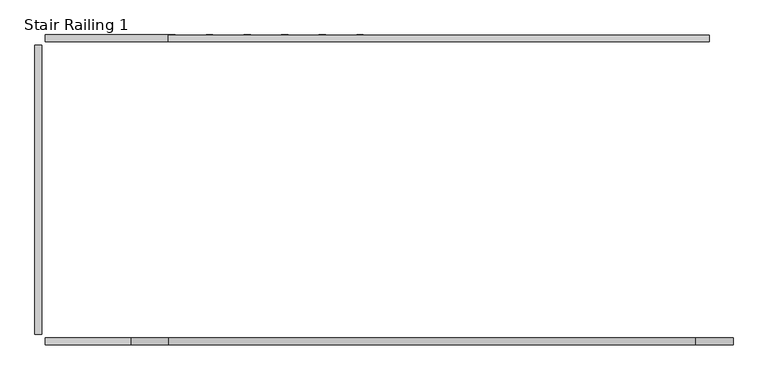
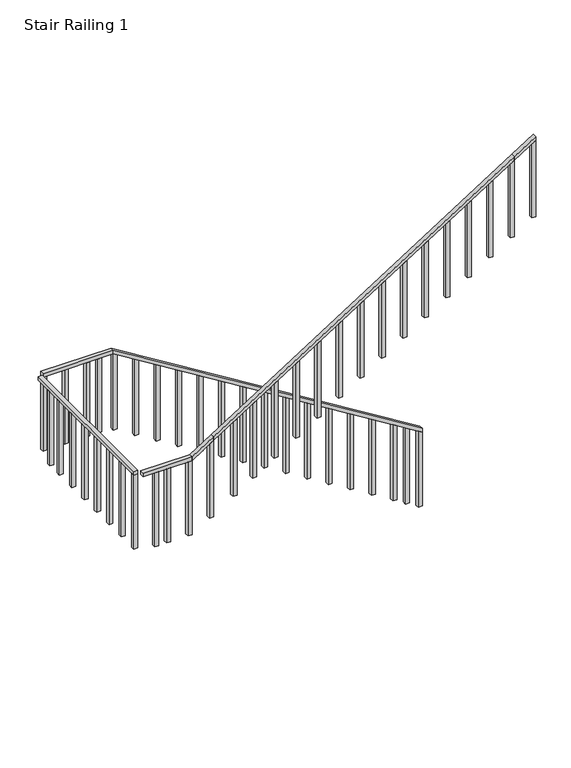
"""IFC4 building model written with IfcOpenShell, lengths in millimetres: railing geometry, Stair Railing 1."""

import ifcopenshell
import ifcopenshell.guid

model = None  # the IFC model being written
_history = None  # IfcOwnerHistory: only IFC2X3 demands one
_inside = {}  # id of a spatial element -> (the spatial element, [elements in it])
_under = {}  # id of a project, library or spatial element -> (it, [spatial elements below it])
_declared = {}  # id of a project -> (the project, [libraries it declares])
_typed = {}  # id of a type object -> (the type object, [elements of that type])
_made_of = {}  # id of a material, layer set ... -> (it, [elements and type objects made of it])


def new_model(schema):
    """Start an empty IFC model of exactly this schema.

    Asked for "IFC4X3", IfcOpenShell would pick the latest addendum, in which some entities
    have other attributes; the version numbers below select the first issue.
    IFC2X3 requires an IfcOwnerHistory on every rooted entity: one is made here for all.
    """
    global model, _history
    if schema == "IFC4X3":
        model = ifcopenshell.file(schema_version=(4, 3, 0, 0))
    else:
        model = ifcopenshell.file(schema=schema)
    _inside.clear()
    _under.clear()
    _declared.clear()
    _typed.clear()
    _made_of.clear()
    _history = None
    if model.schema == "IFC2X3":
        org = make("IfcOrganization", Name="unknown")
        user = make(
            "IfcPersonAndOrganization",
            ThePerson=make("IfcPerson", FamilyName="unknown"),
            TheOrganization=org,
        )
        app = make(
            "IfcApplication",
            ApplicationDeveloper=org,
            Version="unknown",
            ApplicationFullName="unknown",
            ApplicationIdentifier="unknown",
        )
        _history = make(
            "IfcOwnerHistory",
            OwningUser=user,
            OwningApplication=app,
            ChangeAction="ADDED",
            CreationDate=0,
        )
    return model


def make(cls, **values):
    """One entity of the class cls with the attributes given. An attribute that is None is left unset."""
    return model.create_entity(
        cls, **{name: value for name, value in values.items() if value is not None}
    )


def rooted(cls, **values):
    """An entity with a GlobalId (a new one), such as an element, a storey or a relation."""
    return make(cls, GlobalId=ifcopenshell.guid.new(), OwnerHistory=_history, **values)


def si_unit(unit_type, name, prefix=None):
    """IfcSIUnit, for example si_unit("LENGTHUNIT", "METRE", prefix="MILLI")."""
    return make("IfcSIUnit", UnitType=unit_type, Prefix=prefix, Name=name)


def assignment(units):
    """IfcUnitAssignment: the units of a project."""
    return None if units is None else make("IfcUnitAssignment", Units=units)


def point(xyz):
    """IfcCartesianPoint."""
    return None if xyz is None else make("IfcCartesianPoint", Coordinates=xyz)


def direction(xyz):
    """IfcDirection."""
    return None if xyz is None else make("IfcDirection", DirectionRatios=xyz)


def frame(location, z_axis=None, x_axis=None):
    """IfcAxis2Placement3D, a coordinate frame: its origin and axes. An axis left out is left unset."""
    return make(
        "IfcAxis2Placement3D",
        Location=point(location),
        Axis=direction(z_axis),
        RefDirection=direction(x_axis),
    )


def origin():
    """The frame at (0, 0, 0) with its axes left unset."""
    return frame((0.0, 0.0, 0.0))


def place(relative_to, where):
    """IfcLocalPlacement: puts the frame where relative to a parent placement (None: the world)."""
    return make(
        "IfcLocalPlacement", PlacementRelTo=relative_to, RelativePlacement=where
    )


def context(
    kind, dimensions, precision=None, world=None, true_north=None, identifier=None
):
    """IfcGeometricRepresentationContext, for example the 3D "Model" context."""
    return make(
        "IfcGeometricRepresentationContext",
        ContextIdentifier=identifier,
        ContextType=kind,
        CoordinateSpaceDimension=dimensions,
        Precision=precision,
        WorldCoordinateSystem=world,
        TrueNorth=true_north,
    )


def project(units=None, contexts=None):
    """IfcProject with its units and contexts."""
    return rooted(
        "IfcProject",
        Name="project",
        RepresentationContexts=contexts,
        UnitsInContext=assignment(units),
    )


def spatial(cls, under=None, at=None, **own):
    """A site, building, storey or space (cls), placed at a placement, below another one or the project."""
    s = rooted(cls, ObjectPlacement=at, **own)
    if under is not None:
        _under.setdefault(under.id(), (under, []))[1].append(s)
    return s


def polyline(points):
    """IfcPolyline through the points."""
    return make("IfcPolyline", Points=[point(p) for p in points])


def outline(outer, holes=None, kind="AREA"):
    """IfcArbitraryClosedProfileDef: a profile drawn as a closed curve; with holes, ...WithVoids."""
    if holes is None:
        return make("IfcArbitraryClosedProfileDef", ProfileType=kind, OuterCurve=outer)
    return make(
        "IfcArbitraryProfileDefWithVoids",
        ProfileType=kind,
        OuterCurve=outer,
        InnerCurves=holes,
    )


def extrude(swept, where, along, depth):
    """IfcExtrudedAreaSolid: the profile swept, set in the frame where, extruded along a direction by depth."""
    return make(
        "IfcExtrudedAreaSolid",
        SweptArea=swept,
        Position=where,
        ExtrudedDirection=direction(along),
        Depth=depth,
    )


def shape(context_of_items, identifier, shape_type, items):
    """IfcShapeRepresentation: the items that make up one representation, for example the "Body"."""
    return make(
        "IfcShapeRepresentation",
        ContextOfItems=context_of_items,
        RepresentationIdentifier=identifier,
        RepresentationType=shape_type,
        Items=items,
    )


def source(mapping_origin, context_of_items, identifier, shape_type, items):
    """IfcRepresentationMap: a shape defined once, which mapped items show again and again."""
    return make(
        "IfcRepresentationMap",
        MappingOrigin=mapping_origin,
        MappedRepresentation=shape(context_of_items, identifier, shape_type, items),
    )


def transform(
    local_origin,
    x_axis=None,
    y_axis=None,
    z_axis=None,
    scale=None,
    scale2=None,
    scale3=None,
    uniform=True,
):
    """IfcCartesianTransformationOperator3D, or its non-uniform kind. x_axis, y_axis, z_axis: its Axis1, 2, 3."""
    if uniform:
        return make(
            "IfcCartesianTransformationOperator3D",
            Axis1=direction(x_axis),
            Axis2=direction(y_axis),
            LocalOrigin=point(local_origin),
            Scale=scale,
            Axis3=direction(z_axis),
        )
    return make(
        "IfcCartesianTransformationOperator3DnonUniform",
        Axis1=direction(x_axis),
        Axis2=direction(y_axis),
        LocalOrigin=point(local_origin),
        Scale=scale,
        Axis3=direction(z_axis),
        Scale2=scale2,
        Scale3=scale3,
    )


def mapped(mapping_source, mapping_target):
    """IfcMappedItem: shows the shape of a source again, moved by a transform."""
    return make(
        "IfcMappedItem", MappingSource=mapping_source, MappingTarget=mapping_target
    )


def made_of(thing, what):
    """Note that an element or type object is made of a material, layer set ...; save() writes the relation."""
    if what is not None:
        _made_of.setdefault(what.id(), (what, []))[1].append(thing)
    return thing


def element(
    cls,
    number,
    at=None,
    inside=None,
    cuts=None,
    type_object=None,
    material=None,
    context=None,
    identifier="Body",
    shape_type=None,
    held_by="IfcProductDefinitionShape",
    body=None,
    shapes=None,
    **own,
):
    """One element of the class cls, such as IfcWall. Its Tag is "e" and its number.

    at: its placement. inside: the storey or other place that contains it. cuts: it is an
    opening in that element (IfcRelVoidsElement). A single representation is given by context,
    identifier, shape_type and body (its items); several are given by shapes. held_by: the class
    of the entity that holds the representations. save() writes the other relations.
    """
    e = rooted(cls, Tag="e%d" % number, ObjectPlacement=at, **own)
    if body is not None:
        shapes = [shape(context, identifier, shape_type, body)]
    if shapes is not None:
        e.Representation = make(held_by, Representations=shapes)
    if inside is not None:
        _inside.setdefault(inside.id(), (inside, []))[1].append(e)
    if cuts is not None:
        rooted(
            "IfcRelVoidsElement", RelatingBuildingElement=cuts, RelatedOpeningElement=e
        )
    if type_object is not None:
        _typed.setdefault(type_object.id(), (type_object, []))[1].append(e)
    return made_of(e, material)


def aggregate(whole, parts):
    """IfcRelAggregates: a whole, such as a stair, and the parts it consists of."""
    return rooted("IfcRelAggregates", RelatingObject=whole, RelatedObjects=parts)


def save(model, path):
    """Write the relations noted so far, then the file.

    IfcRelAggregates (storeys below a building ...), IfcRelContainedInSpatialStructure (elements
    in a storey), IfcRelDefinesByType, IfcRelAssociatesMaterial and IfcRelDeclares: one each for
    every whole, place, type object, material and project.
    """
    for whole, parts in _under.values():
        aggregate(whole, parts)
    for where, things in _inside.values():
        rooted(
            "IfcRelContainedInSpatialStructure",
            RelatedElements=things,
            RelatingStructure=where,
        )
    for kind, things in _typed.values():
        rooted("IfcRelDefinesByType", RelatedObjects=things, RelatingType=kind)
    for what, things in _made_of.values():
        rooted("IfcRelAssociatesMaterial", RelatedObjects=things, RelatingMaterial=what)
    for by, libraries in _declared.values():
        rooted("IfcRelDeclares", RelatingContext=by, RelatedDefinitions=libraries)
    model.write(path)


def stair_railing_1_933ab80a(model_context):
    return source(origin(), model_context, "Body", "SweptSolid", [
        extrude(outline(polyline([(3721.5096774, -66070.520296), (3670.7096774, -66070.520296), (1192.9806452, -62054.8461136), (1243.7806452, -62054.8461136), (3721.5096774, -66070.520296)])), frame((0.0, 33673.381749, 0.0), z_axis=(0.0, 1.0, 0.0), x_axis=(0.0, 0.0, 1.0)), (0.0, 0.0, 1.0), 50.8),
        extrude(outline(polyline([(1224.3249797, -62105.6461136), (176.9806452, -62105.6461136), (176.9806452, -62054.8461136), (1192.9806452, -62054.8461136), (1224.3249797, -62105.6461136)])), frame((0.0, 33673.381749, 0.0), z_axis=(0.0, 1.0, 0.0), x_axis=(0.0, 0.0, 1.0)), (0.0, 0.0, 1.0), 50.8),
        extrude(outline(polyline([(1326.95737, -62271.9832048), (279.6130355, -62271.9832048), (279.6130355, -62221.1832048), (1295.6130355, -62221.1832048), (1326.95737, -62271.9832048)])), frame((0.0, 33673.381749, 0.0), z_axis=(0.0, 1.0, 0.0), x_axis=(0.0, 0.0, 1.0)), (0.0, 0.0, 1.0), 50.8),
        extrude(outline(polyline([(1429.5897603, -62438.320296), (382.2454257, -62438.320296), (382.2454257, -62387.520296), (1398.2454257, -62387.520296), (1429.5897603, -62438.320296)])), frame((0.0, 33673.381749, 0.0), z_axis=(0.0, 1.0, 0.0), x_axis=(0.0, 0.0, 1.0)), (0.0, 0.0, 1.0), 50.8),
        extrude(outline(polyline([(1601.9836, -62717.720296), (554.6392655, -62717.720296), (554.6392655, -62666.920296), (1570.6392655, -62666.920296), (1601.9836, -62717.720296)])), frame((0.0, 33673.381749, 0.0), z_axis=(0.0, 1.0, 0.0), x_axis=(0.0, 0.0, 1.0)), (0.0, 0.0, 1.0), 50.8),
        extrude(outline(polyline([(1774.3774398, -62997.120296), (727.0331053, -62997.120296), (727.0331053, -62946.320296), (1743.0331053, -62946.320296), (1774.3774398, -62997.120296)])), frame((0.0, 33673.381749, 0.0), z_axis=(0.0, 1.0, 0.0), x_axis=(0.0, 0.0, 1.0)), (0.0, 0.0, 1.0), 50.8),
        extrude(outline(polyline([(1946.7712796, -63276.520296), (899.4269451, -63276.520296), (899.4269451, -63225.720296), (1915.4269451, -63225.720296), (1946.7712796, -63276.520296)])), frame((0.0, 33673.381749, 0.0), z_axis=(0.0, 1.0, 0.0), x_axis=(0.0, 0.0, 1.0)), (0.0, 0.0, 1.0), 50.8),
        extrude(outline(polyline([(2119.1651194, -63555.920296), (1071.8207849, -63555.920296), (1071.8207849, -63505.120296), (2087.8207849, -63505.120296), (2119.1651194, -63555.920296)])), frame((0.0, 33673.381749, 0.0), z_axis=(0.0, 1.0, 0.0), x_axis=(0.0, 0.0, 1.0)), (0.0, 0.0, 1.0), 50.8),
        extrude(outline(polyline([(2291.5589592, -63835.320296), (1244.2146247, -63835.320296), (1244.2146247, -63784.520296), (2260.2146247, -63784.520296), (2291.5589592, -63835.320296)])), frame((0.0, 33673.381749, 0.0), z_axis=(0.0, 1.0, 0.0), x_axis=(0.0, 0.0, 1.0)), (0.0, 0.0, 1.0), 50.8),
        extrude(outline(polyline([(2463.9527989, -64114.720296), (1416.6084644, -64114.720296), (1416.6084644, -64063.920296), (2432.6084644, -64063.920296), (2463.9527989, -64114.720296)])), frame((0.0, 33673.381749, 0.0), z_axis=(0.0, 1.0, 0.0), x_axis=(0.0, 0.0, 1.0)), (0.0, 0.0, 1.0), 50.8),
        extrude(outline(polyline([(2636.3466387, -64394.120296), (1589.0023042, -64394.120296), (1589.0023042, -64343.320296), (2605.0023042, -64343.320296), (2636.3466387, -64394.120296)])), frame((0.0, 33673.381749, 0.0), z_axis=(0.0, 1.0, 0.0), x_axis=(0.0, 0.0, 1.0)), (0.0, 0.0, 1.0), 50.8),
        extrude(outline(polyline([(2808.7404785, -64673.520296), (1761.396144, -64673.520296), (1761.396144, -64622.720296), (2777.396144, -64622.720296), (2808.7404785, -64673.520296)])), frame((0.0, 33673.381749, 0.0), z_axis=(0.0, 1.0, 0.0), x_axis=(0.0, 0.0, 1.0)), (0.0, 0.0, 1.0), 50.8),
        extrude(outline(polyline([(2981.1343183, -64952.920296), (1933.7899838, -64952.920296), (1933.7899838, -64902.120296), (2949.7899838, -64902.120296), (2981.1343183, -64952.920296)])), frame((0.0, 33673.381749, 0.0), z_axis=(0.0, 1.0, 0.0), x_axis=(0.0, 0.0, 1.0)), (0.0, 0.0, 1.0), 50.8),
        extrude(outline(polyline([(3153.5281581, -65232.320296), (2106.1838236, -65232.320296), (2106.1838236, -65181.520296), (3122.1838236, -65181.520296), (3153.5281581, -65232.320296)])), frame((0.0, 33673.381749, 0.0), z_axis=(0.0, 1.0, 0.0), x_axis=(0.0, 0.0, 1.0)), (0.0, 0.0, 1.0), 50.8),
        extrude(outline(polyline([(3325.9219979, -65511.720296), (2278.5776633, -65511.720296), (2278.5776633, -65460.920296), (3294.5776633, -65460.920296), (3325.9219979, -65511.720296)])), frame((0.0, 33673.381749, 0.0), z_axis=(0.0, 1.0, 0.0), x_axis=(0.0, 0.0, 1.0)), (0.0, 0.0, 1.0), 50.8),
        extrude(outline(polyline([(3498.3158376, -65791.120296), (2450.9715031, -65791.120296), (2450.9715031, -65740.320296), (3466.9715031, -65740.320296), (3498.3158376, -65791.120296)])), frame((0.0, 33673.381749, 0.0), z_axis=(0.0, 1.0, 0.0), x_axis=(0.0, 0.0, 1.0)), (0.0, 0.0, 1.0), 50.8),
        extrude(outline(polyline([(3670.7096774, -66070.520296), (2623.3653429, -66070.520296), (2623.3653429, -66019.720296), (3639.3653429, -66019.720296), (3670.7096774, -66070.520296)])), frame((0.0, 33673.381749, 0.0), z_axis=(0.0, 1.0, 0.0), x_axis=(0.0, 0.0, 1.0)), (0.0, 0.0, 1.0), 50.8),
        extrude(outline(polyline([(-66984.920296, 33673.381749), (-66984.920296, 33724.181749), (-66070.520296, 33724.181749), (-66070.520296, 33673.381749), (-66984.920296, 33673.381749)])), frame((0.0, 0.0, 3670.7096774), z_axis=(0.0, 0.0, 1.0), x_axis=(1.0, 0.0, 0.0)), (0.0, 0.0, 1.0), 50.8),
        extrude(outline(polyline([(-66222.920296, 33673.381749), (-66273.720296, 33673.381749), (-66273.720296, 33724.181749), (-66222.920296, 33724.181749), (-66222.920296, 33673.381749)])), frame((0.0, 0.0, 2654.7096774), z_axis=(0.0, 0.0, 1.0), x_axis=(1.0, 0.0, 0.0)), (0.0, 0.0, 1.0), 1016.0),
        extrude(outline(polyline([(-66375.320296, 33673.381749), (-66426.120296, 33673.381749), (-66426.120296, 33724.181749), (-66375.320296, 33724.181749), (-66375.320296, 33673.381749)])), frame((0.0, 0.0, 2654.7096774), z_axis=(0.0, 0.0, 1.0), x_axis=(1.0, 0.0, 0.0)), (0.0, 0.0, 1.0), 1016.0),
        extrude(outline(polyline([(-66654.720296, 33673.381749), (-66705.520296, 33673.381749), (-66705.520296, 33724.181749), (-66654.720296, 33724.181749), (-66654.720296, 33673.381749)])), frame((0.0, 0.0, 2654.7096774), z_axis=(0.0, 0.0, 1.0), x_axis=(1.0, 0.0, 0.0)), (0.0, 0.0, 1.0), 1016.0),
        extrude(outline(polyline([(-66934.120296, 33673.381749), (-66984.920296, 33673.381749), (-66984.920296, 33724.181749), (-66934.120296, 33724.181749), (-66934.120296, 33673.381749)])), frame((0.0, 0.0, 2654.7096774), z_axis=(0.0, 0.0, 1.0), x_axis=(1.0, 0.0, 0.0)), (0.0, 0.0, 1.0), 1016.0),
        extrude(outline(polyline([(-67010.320296, 31497.8982705), (-67061.120296, 31497.8982705), (-67061.120296, 33647.981749), (-67010.320296, 33647.981749), (-67010.320296, 31497.8982705)])), frame((0.0, 0.0, 3670.7096774), z_axis=(0.0, 0.0, 1.0), x_axis=(1.0, 0.0, 0.0)), (0.0, 0.0, 1.0), 50.8),
        extrude(outline(polyline([(-67010.320296, 33436.5400097), (-67010.320296, 33385.7400097), (-67061.120296, 33385.7400097), (-67061.120296, 33436.5400097), (-67010.320296, 33436.5400097)])), frame((0.0, 0.0, 2654.7096774), z_axis=(0.0, 0.0, 1.0), x_axis=(1.0, 0.0, 0.0)), (0.0, 0.0, 1.0), 1016.0),
        extrude(outline(polyline([(-67010.320296, 33225.0982705), (-67010.320296, 33174.2982705), (-67061.120296, 33174.2982705), (-67061.120296, 33225.0982705), (-67010.320296, 33225.0982705)])), frame((0.0, 0.0, 2654.7096774), z_axis=(0.0, 0.0, 1.0), x_axis=(1.0, 0.0, 0.0)), (0.0, 0.0, 1.0), 1016.0),
        extrude(outline(polyline([(-67010.320296, 32945.6982705), (-67010.320296, 32894.8982705), (-67061.120296, 32894.8982705), (-67061.120296, 32945.6982705), (-67010.320296, 32945.6982705)])), frame((0.0, 0.0, 2654.7096774), z_axis=(0.0, 0.0, 1.0), x_axis=(1.0, 0.0, 0.0)), (0.0, 0.0, 1.0), 1016.0),
        extrude(outline(polyline([(-67010.320296, 32666.2982705), (-67010.320296, 32615.4982705), (-67061.120296, 32615.4982705), (-67061.120296, 32666.2982705), (-67010.320296, 32666.2982705)])), frame((0.0, 0.0, 2654.7096774), z_axis=(0.0, 0.0, 1.0), x_axis=(1.0, 0.0, 0.0)), (0.0, 0.0, 1.0), 1016.0),
        extrude(outline(polyline([(-67010.320296, 32386.8982705), (-67010.320296, 32336.0982705), (-67061.120296, 32336.0982705), (-67061.120296, 32386.8982705), (-67010.320296, 32386.8982705)])), frame((0.0, 0.0, 2654.7096774), z_axis=(0.0, 0.0, 1.0), x_axis=(1.0, 0.0, 0.0)), (0.0, 0.0, 1.0), 1016.0),
        extrude(outline(polyline([(-67010.320296, 32107.4982705), (-67010.320296, 32056.6982705), (-67061.120296, 32056.6982705), (-67061.120296, 32107.4982705), (-67010.320296, 32107.4982705)])), frame((0.0, 0.0, 2654.7096774), z_axis=(0.0, 0.0, 1.0), x_axis=(1.0, 0.0, 0.0)), (0.0, 0.0, 1.0), 1016.0),
        extrude(outline(polyline([(-67010.320296, 31828.0982705), (-67010.320296, 31777.2982705), (-67061.120296, 31777.2982705), (-67061.120296, 31828.0982705), (-67010.320296, 31828.0982705)])), frame((0.0, 0.0, 2654.7096774), z_axis=(0.0, 0.0, 1.0), x_axis=(1.0, 0.0, 0.0)), (0.0, 0.0, 1.0), 1016.0),
        extrude(outline(polyline([(-67010.320296, 31548.6982705), (-67010.320296, 31497.8982705), (-67061.120296, 31497.8982705), (-67061.120296, 31548.6982705), (-67010.320296, 31548.6982705)])), frame((0.0, 0.0, 2654.7096774), z_axis=(0.0, 0.0, 1.0), x_axis=(1.0, 0.0, 0.0)), (0.0, 0.0, 1.0), 1016.0),
        extrude(outline(polyline([(-66349.920296, 31472.4982705), (-66349.920296, 31421.6982705), (-66984.920296, 31421.6982705), (-66984.920296, 31472.4982705), (-66349.920296, 31472.4982705)])), frame((0.0, 0.0, 3670.7096774), z_axis=(0.0, 0.0, 1.0), x_axis=(1.0, 0.0, 0.0)), (0.0, 0.0, 1.0), 50.8),
        extrude(outline(polyline([(-66832.520296, 31472.4982705), (-66781.720296, 31472.4982705), (-66781.720296, 31421.6982705), (-66832.520296, 31421.6982705), (-66832.520296, 31472.4982705)])), frame((0.0, 0.0, 2654.7096774), z_axis=(0.0, 0.0, 1.0), x_axis=(1.0, 0.0, 0.0)), (0.0, 0.0, 1.0), 1016.0),
        extrude(outline(polyline([(-66680.120296, 31472.4982705), (-66629.320296, 31472.4982705), (-66629.320296, 31421.6982705), (-66680.120296, 31421.6982705), (-66680.120296, 31472.4982705)])), frame((0.0, 0.0, 2654.7096774), z_axis=(0.0, 0.0, 1.0), x_axis=(1.0, 0.0, 0.0)), (0.0, 0.0, 1.0), 1016.0),
        extrude(outline(polyline([(-66400.720296, 31472.4982705), (-66349.920296, 31472.4982705), (-66349.920296, 31421.6982705), (-66400.720296, 31421.6982705), (-66400.720296, 31472.4982705)])), frame((0.0, 0.0, 2654.7096774), z_axis=(0.0, 0.0, 1.0), x_axis=(1.0, 0.0, 0.0)), (0.0, 0.0, 1.0), 1016.0),
        extrude(outline(polyline([(3847.6903226, -66070.520296), (3898.4903226, -66070.520296), (3721.5096774, -66349.920296), (3670.7096774, -66349.920296), (3847.6903226, -66070.520296)])), frame((0.0, 31421.6982705, 0.0), z_axis=(0.0, 1.0, 0.0), x_axis=(0.0, 0.0, 1.0)), (0.0, 0.0, 1.0), 50.8),
        extrude(outline(polyline([(3815.5120235, -66121.320296), (2799.5120235, -66121.320296), (2799.5120235, -66070.520296), (3847.6903226, -66070.520296), (3815.5120235, -66121.320296)])), frame((0.0, 31421.6982705, 0.0), z_axis=(0.0, 1.0, 0.0), x_axis=(0.0, 0.0, 1.0)), (0.0, 0.0, 1.0), 50.8),
        extrude(outline(polyline([(6325.4193548, -62158.920296), (6376.2193548, -62158.920296), (3898.4903226, -66070.520296), (3847.6903226, -66070.520296), (6325.4193548, -62158.920296)])), frame((0.0, 31421.6982705, 0.0), z_axis=(0.0, 1.0, 0.0), x_axis=(0.0, 0.0, 1.0)), (0.0, 0.0, 1.0), 50.8),
        extrude(outline(polyline([(4008.5818182, -65816.520296), (2992.5818182, -65816.520296), (2992.5818182, -65765.720296), (4040.7601173, -65765.720296), (4008.5818182, -65816.520296)])), frame((0.0, 31421.6982705, 0.0), z_axis=(0.0, 1.0, 0.0), x_axis=(0.0, 0.0, 1.0)), (0.0, 0.0, 1.0), 50.8),
        extrude(outline(polyline([(4169.4733138, -65562.520296), (3153.4733138, -65562.520296), (3153.4733138, -65511.720296), (4201.6516129, -65511.720296), (4169.4733138, -65562.520296)])), frame((0.0, 31421.6982705, 0.0), z_axis=(0.0, 1.0, 0.0), x_axis=(0.0, 0.0, 1.0)), (0.0, 0.0, 1.0), 50.8),
        extrude(outline(polyline([(4346.4539589, -65283.120296), (3330.4539589, -65283.120296), (3330.4539589, -65232.320296), (4378.6322581, -65232.320296), (4346.4539589, -65283.120296)])), frame((0.0, 31421.6982705, 0.0), z_axis=(0.0, 1.0, 0.0), x_axis=(0.0, 0.0, 1.0)), (0.0, 0.0, 1.0), 50.8),
        extrude(outline(polyline([(4523.4346041, -65003.720296), (3507.4346041, -65003.720296), (3507.4346041, -64952.920296), (4555.6129032, -64952.920296), (4523.4346041, -65003.720296)])), frame((0.0, 31421.6982705, 0.0), z_axis=(0.0, 1.0, 0.0), x_axis=(0.0, 0.0, 1.0)), (0.0, 0.0, 1.0), 50.8),
        extrude(outline(polyline([(4700.4152493, -64724.320296), (3684.4152493, -64724.320296), (3684.4152493, -64673.520296), (4732.5935484, -64673.520296), (4700.4152493, -64724.320296)])), frame((0.0, 31421.6982705, 0.0), z_axis=(0.0, 1.0, 0.0), x_axis=(0.0, 0.0, 1.0)), (0.0, 0.0, 1.0), 50.8),
        extrude(outline(polyline([(4877.3958944, -64444.920296), (3861.3958944, -64444.920296), (3861.3958944, -64394.120296), (4909.5741935, -64394.120296), (4877.3958944, -64444.920296)])), frame((0.0, 31421.6982705, 0.0), z_axis=(0.0, 1.0, 0.0), x_axis=(0.0, 0.0, 1.0)), (0.0, 0.0, 1.0), 50.8),
        extrude(outline(polyline([(5054.3765396, -64165.520296), (4038.3765396, -64165.520296), (4038.3765396, -64114.720296), (5086.5548387, -64114.720296), (5054.3765396, -64165.520296)])), frame((0.0, 31421.6982705, 0.0), z_axis=(0.0, 1.0, 0.0), x_axis=(0.0, 0.0, 1.0)), (0.0, 0.0, 1.0), 50.8),
        extrude(outline(polyline([(5231.3571848, -63886.120296), (4215.3571848, -63886.120296), (4215.3571848, -63835.320296), (5263.5354839, -63835.320296), (5231.3571848, -63886.120296)])), frame((0.0, 31421.6982705, 0.0), z_axis=(0.0, 1.0, 0.0), x_axis=(0.0, 0.0, 1.0)), (0.0, 0.0, 1.0), 50.8),
        extrude(outline(polyline([(5408.3378299, -63606.720296), (4392.3378299, -63606.720296), (4392.3378299, -63555.920296), (5440.516129, -63555.920296), (5408.3378299, -63606.720296)])), frame((0.0, 31421.6982705, 0.0), z_axis=(0.0, 1.0, 0.0), x_axis=(0.0, 0.0, 1.0)), (0.0, 0.0, 1.0), 50.8),
        extrude(outline(polyline([(5585.3184751, -63327.320296), (4569.3184751, -63327.320296), (4569.3184751, -63276.520296), (5617.4967742, -63276.520296), (5585.3184751, -63327.320296)])), frame((0.0, 31421.6982705, 0.0), z_axis=(0.0, 1.0, 0.0), x_axis=(0.0, 0.0, 1.0)), (0.0, 0.0, 1.0), 50.8),
        extrude(outline(polyline([(5762.2991202, -63047.920296), (4746.2991202, -63047.920296), (4746.2991202, -62997.120296), (5794.4774194, -62997.120296), (5762.2991202, -63047.920296)])), frame((0.0, 31421.6982705, 0.0), z_axis=(0.0, 1.0, 0.0), x_axis=(0.0, 0.0, 1.0)), (0.0, 0.0, 1.0), 50.8),
        extrude(outline(polyline([(5939.2797654, -62768.520296), (4923.2797654, -62768.520296), (4923.2797654, -62717.720296), (5971.4580645, -62717.720296), (5939.2797654, -62768.520296)])), frame((0.0, 31421.6982705, 0.0), z_axis=(0.0, 1.0, 0.0), x_axis=(0.0, 0.0, 1.0)), (0.0, 0.0, 1.0), 50.8),
        extrude(outline(polyline([(6116.2604106, -62489.120296), (5100.2604106, -62489.120296), (5100.2604106, -62438.320296), (6148.4387097, -62438.320296), (6116.2604106, -62489.120296)])), frame((0.0, 31421.6982705, 0.0), z_axis=(0.0, 1.0, 0.0), x_axis=(0.0, 0.0, 1.0)), (0.0, 0.0, 1.0), 50.8),
        extrude(outline(polyline([(6293.2410557, -62209.720296), (5277.2410557, -62209.720296), (5277.2410557, -62158.920296), (6325.4193548, -62158.920296), (6293.2410557, -62209.720296)])), frame((0.0, 31421.6982705, 0.0), z_axis=(0.0, 1.0, 0.0), x_axis=(0.0, 0.0, 1.0)), (0.0, 0.0, 1.0), 50.8),
        extrude(outline(polyline([(6502.4, -61879.520296), (6553.2, -61879.520296), (6376.2193548, -62158.920296), (6325.4193548, -62158.920296), (6502.4, -61879.520296)])), frame((0.0, 31421.6982705, 0.0), z_axis=(0.0, 1.0, 0.0), x_axis=(0.0, 0.0, 1.0)), (0.0, 0.0, 1.0), 50.8),
        extrude(outline(polyline([(6470.2217009, -61930.320296), (5454.2217009, -61930.320296), (5454.2217009, -61879.520296), (6502.4, -61879.520296), (6470.2217009, -61930.320296)])), frame((0.0, 31421.6982705, 0.0), z_axis=(0.0, 1.0, 0.0), x_axis=(0.0, 0.0, 1.0)), (0.0, 0.0, 1.0), 50.8),
    ])


if __name__ == "__main__":
    model = new_model("IFC4")
    model_context = context("Model", 3, world=origin())
    ifc_project = project(units=[si_unit("LENGTHUNIT", "METRE", prefix="MILLI")], contexts=[model_context])
    site = spatial("IfcSite", under=ifc_project)
    building = spatial("IfcBuilding", under=site)
    placement = place(None, origin())
    stair_railing_1_shape = stair_railing_1_933ab80a(model_context)
    element("IfcRailing", 1, ObjectType="Stair Railing 1", at=placement, inside=building, context=model_context, shape_type="MappedRepresentation", body=[
        mapped(stair_railing_1_shape, transform((0.0, 0.0, 0.0), x_axis=(1.0, 0.0, 0.0), y_axis=(0.0, 1.0, 0.0), z_axis=(0.0, 0.0, 1.0))),
    ])
    save(model, "model.ifc")
